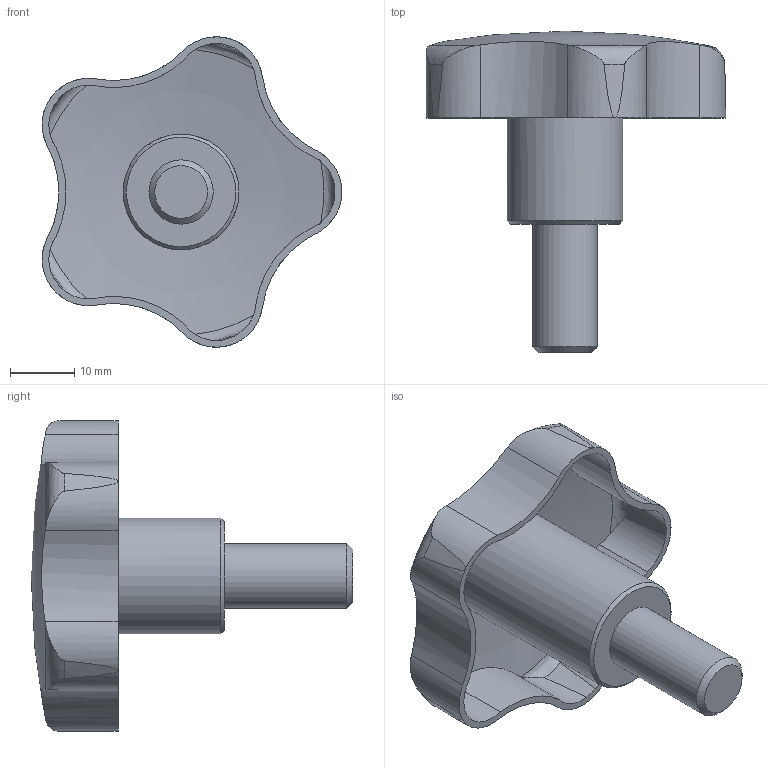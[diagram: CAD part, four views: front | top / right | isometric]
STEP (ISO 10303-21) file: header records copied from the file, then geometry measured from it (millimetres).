
FILE_DESCRIPTION( ( 'STEP AP203' ), '1' );
FILE_NAME( 'C:/Temp/Ganter_Step_05_03_2020/data/2_2/gn_5334_4/gn5334_4_2/Stainless Steel-Star knob with threaded bolt AISI 316L (A4) GN 5334.4-50-M10-20.stp', '2020-03-05T12:08:34', ( 'License CC BY-ND 4.0' ), ( 'CADENAS' ), ' ', 'PARTsolutions', ' ' );
FILE_SCHEMA( ( 'CONFIG_CONTROL_DESIGN' ) );
Length unit declared in the file: millimetre
Products named in the file (1): _Stainless Steel-Star knob with threaded bolt AISI 316L (A4) GN 5334.4-50-M10-20
Bounding box: 46.61 x 50 x 48.26 mm (x, y, z)
Volume: 12183.6 mm3; surface area: 8490.5 mm2
Topology: 1 solids, 1 shells, 59 faces, 160 edges, 104 vertices
Faces by surface type: cylinder 32, cone 12, torus 10, plane 3, sphere 2
Full cylindrical faces by diameter (mm): 10 x1, 18 x1
Entity records: 2466 total; most frequent: CARTESIAN_POINT 1057, ORIENTED_EDGE 302, DIRECTION 262, EDGE_CURVE 151, AXIS2_PLACEMENT_3D 121, VERTEX_POINT 102, B_SPLINE_CURVE_WITH_KNOTS 70, EDGE_LOOP 66
